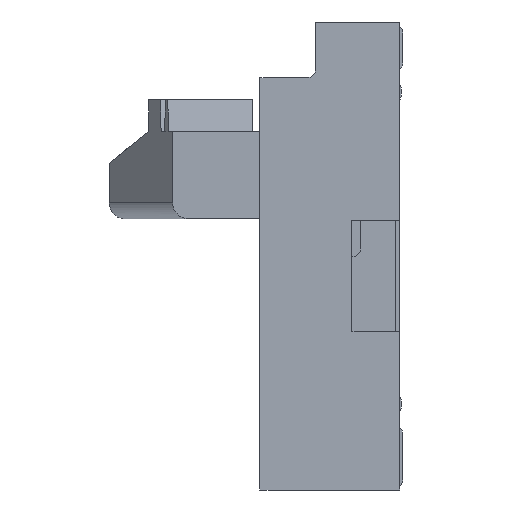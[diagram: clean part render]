
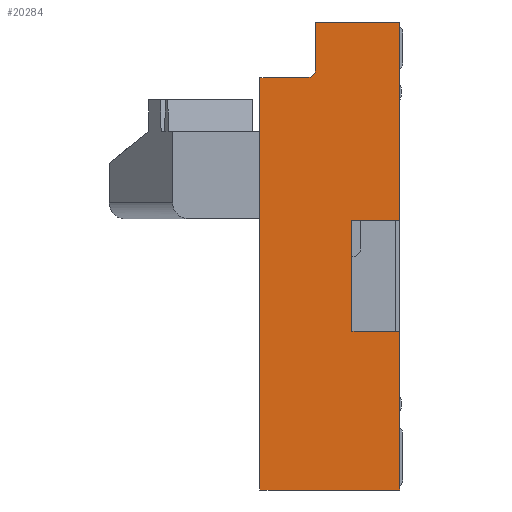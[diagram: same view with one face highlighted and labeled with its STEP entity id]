
A CAD part, left-side view. The second image highlights one B-rep face of the part: STEP entity #20284.
In plain terms, the highlighted planar face has unit normal (-1, 0, 0).
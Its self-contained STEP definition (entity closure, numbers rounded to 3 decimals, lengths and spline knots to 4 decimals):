
#4409 = AXIS2_PLACEMENT_3D ( 'NONE', #53363, #53366, #53368 ) ;
#20284 = ADVANCED_FACE ( 'NONE', ( #135703 ), #133390, .T. ) ;
#22918 = CARTESIAN_POINT ( 'NONE',  ( -8.4, 0.9, -0.35 ) ) ;
#22919 = DIRECTION ( 'NONE',  ( 0., 1., 0. ) ) ;
#22927 = CARTESIAN_POINT ( 'NONE',  ( -8.4, -0.5636, -2.95 ) ) ;
#22973 = DIRECTION ( 'NONE',  ( 0., 1., 0. ) ) ;
#22978 = CARTESIAN_POINT ( 'NONE',  ( -8.4, 0.02, -1.95 ) ) ;
#22979 = DIRECTION ( 'NONE',  ( 0., 1., 0. ) ) ;
#23030 = CARTESIAN_POINT ( 'NONE',  ( -8.4, 0.02, -1.25 ) ) ;
#23031 = DIRECTION ( 'NONE',  ( 0., -1., 0. ) ) ;
#23032 = CARTESIAN_POINT ( 'NONE',  ( -8.4, 0.02, -2.85 ) ) ;
#23033 = DIRECTION ( 'NONE',  ( 0., 0., -1. ) ) ;
#23034 = CARTESIAN_POINT ( 'NONE',  ( -8.4, 0.9, 0. ) ) ;
#23035 = DIRECTION ( 'NONE',  ( 0., -1., 0. ) ) ;
#23036 = CARTESIAN_POINT ( 'NONE',  ( -8.4, 0.9, 0. ) ) ;
#23037 = DIRECTION ( 'NONE',  ( 0., 0., 1. ) ) ;
#23038 = CARTESIAN_POINT ( 'NONE',  ( -8.4, 0.02, -2.85 ) ) ;
#23039 = DIRECTION ( 'NONE',  ( 0., 0., -1. ) ) ;
#23040 = CARTESIAN_POINT ( 'NONE',  ( -8.4, 0.32, -1.25 ) ) ;
#23041 = DIRECTION ( 'NONE',  ( 0., 0., 1. ) ) ;
#26681 = LINE ( 'NONE', #53252, #26720 ) ;
#26720 = VECTOR ( 'NONE', #53318, 1000. ) ;
#26735 = CIRCLE ( 'NONE', #4409, 0.05 ) ;
#27535 = LINE ( 'NONE', #22918, #27540 ) ;
#27540 = VECTOR ( 'NONE', #22919, 1000. ) ;
#27625 = LINE ( 'NONE', #22927, #27642 ) ;
#27642 = VECTOR ( 'NONE', #22973, 1000. ) ;
#27647 = LINE ( 'NONE', #22978, #27653 ) ;
#27653 = VECTOR ( 'NONE', #22979, 1000. ) ;
#27725 = LINE ( 'NONE', #23030, #27729 ) ;
#27728 = LINE ( 'NONE', #23032, #27731 ) ;
#27729 = VECTOR ( 'NONE', #23031, 1000. ) ;
#27730 = LINE ( 'NONE', #23034, #27734 ) ;
#27731 = VECTOR ( 'NONE', #23033, 1000. ) ;
#27732 = LINE ( 'NONE', #23036, #27737 ) ;
#27734 = VECTOR ( 'NONE', #23035, 1000. ) ;
#27736 = LINE ( 'NONE', #23038, #27739 ) ;
#27737 = VECTOR ( 'NONE', #23037, 1000. ) ;
#27738 = LINE ( 'NONE', #23040, #27741 ) ;
#27739 = VECTOR ( 'NONE', #23039, 1000. ) ;
#27741 = VECTOR ( 'NONE', #23041, 1000. ) ;
#28777 = AXIS2_PLACEMENT_3D ( 'NONE', #133382, #133392, #133393 ) ;
#33219 = ORIENTED_EDGE ( 'NONE', *, *, #143258, .T. ) ;
#33220 = ORIENTED_EDGE ( 'NONE', *, *, #143259, .F. ) ;
#33221 = ORIENTED_EDGE ( 'NONE', *, *, #143260, .F. ) ;
#33222 = ORIENTED_EDGE ( 'NONE', *, *, #142966, .T. ) ;
#33223 = ORIENTED_EDGE ( 'NONE', *, *, #142972, .F. ) ;
#33224 = ORIENTED_EDGE ( 'NONE', *, *, #143200, .T. ) ;
#33225 = ORIENTED_EDGE ( 'NONE', *, *, #143261, .F. ) ;
#33226 = ORIENTED_EDGE ( 'NONE', *, *, #143227, .F. ) ;
#33227 = ORIENTED_EDGE ( 'NONE', *, *, #143262, .F. ) ;
#33228 = ORIENTED_EDGE ( 'NONE', *, *, #143230, .T. ) ;
#33229 = ORIENTED_EDGE ( 'NONE', *, *, #143263, .T. ) ;
#53252 = CARTESIAN_POINT ( 'NONE',  ( -8.4, 0.55, 0. ) ) ;
#53318 = DIRECTION ( 'NONE',  ( 0., 0., -1. ) ) ;
#53363 = CARTESIAN_POINT ( 'NONE',  ( -8.4, 0.6, -0.3 ) ) ;
#53366 = DIRECTION ( 'NONE',  ( -1., 0., 0. ) ) ;
#53368 = DIRECTION ( 'NONE',  ( 0., 0., -1. ) ) ;
#119761 = EDGE_LOOP ( 'NONE', ( #33219, #33220, #33221, #33222, #33223, #33224, #33225, #33226, #33227, #33228, #33229 ) ) ;
#133382 = CARTESIAN_POINT ( 'NONE',  ( -8.4, 0., 0. ) ) ;
#133390 = PLANE ( 'NONE',  #28777 ) ;
#133392 = DIRECTION ( 'NONE',  ( -1., 0., 0. ) ) ;
#133393 = DIRECTION ( 'NONE',  ( 0., 0., -1. ) ) ;
#135703 = FACE_OUTER_BOUND ( 'NONE', #119761, .T. ) ;
#142966 = EDGE_CURVE ( 'NONE', #156673, #156671, #26681, .T. ) ;
#142972 = EDGE_CURVE ( 'NONE', #156678, #156671, #26735, .T. ) ;
#143200 = EDGE_CURVE ( 'NONE', #156678, #156984, #27535, .T. ) ;
#143227 = EDGE_CURVE ( 'NONE', #157007, #157009, #27625, .T. ) ;
#143230 = EDGE_CURVE ( 'NONE', #157001, #156979, #27647, .T. ) ;
#143258 = EDGE_CURVE ( 'NONE', #157029, #157032, #27725, .T. ) ;
#143259 = EDGE_CURVE ( 'NONE', #157037, #157032, #27728, .T. ) ;
#143260 = EDGE_CURVE ( 'NONE', #156673, #157037, #27730, .T. ) ;
#143261 = EDGE_CURVE ( 'NONE', #157009, #156984, #27732, .T. ) ;
#143262 = EDGE_CURVE ( 'NONE', #157001, #157007, #27736, .T. ) ;
#143263 = EDGE_CURVE ( 'NONE', #156979, #157029, #27738, .T. ) ;
#150562 = CARTESIAN_POINT ( 'NONE',  ( -8.4, 0.55, -0.3 ) ) ;
#150564 = CARTESIAN_POINT ( 'NONE',  ( -8.4, 0.55, 0. ) ) ;
#150569 = CARTESIAN_POINT ( 'NONE',  ( -8.4, 0.6, -0.35 ) ) ;
#150787 = CARTESIAN_POINT ( 'NONE',  ( -8.4, 0.9, -0.35 ) ) ;
#150788 = CARTESIAN_POINT ( 'NONE',  ( -8.4, 0.32, -1.95 ) ) ;
#150798 = CARTESIAN_POINT ( 'NONE',  ( -8.4, 0.02, -1.95 ) ) ;
#150803 = CARTESIAN_POINT ( 'NONE',  ( -8.4, 0.9, -2.95 ) ) ;
#150806 = CARTESIAN_POINT ( 'NONE',  ( -8.4, 0.02, -2.95 ) ) ;
#150816 = CARTESIAN_POINT ( 'NONE',  ( -8.4, 0.32, -1.25 ) ) ;
#150821 = CARTESIAN_POINT ( 'NONE',  ( -8.4, 0.02, 0. ) ) ;
#150822 = CARTESIAN_POINT ( 'NONE',  ( -8.4, 0.02, -1.25 ) ) ;
#156671 = VERTEX_POINT ( 'NONE', #150562 ) ;
#156673 = VERTEX_POINT ( 'NONE', #150564 ) ;
#156678 = VERTEX_POINT ( 'NONE', #150569 ) ;
#156979 = VERTEX_POINT ( 'NONE', #150788 ) ;
#156984 = VERTEX_POINT ( 'NONE', #150787 ) ;
#157001 = VERTEX_POINT ( 'NONE', #150798 ) ;
#157007 = VERTEX_POINT ( 'NONE', #150806 ) ;
#157009 = VERTEX_POINT ( 'NONE', #150803 ) ;
#157029 = VERTEX_POINT ( 'NONE', #150816 ) ;
#157032 = VERTEX_POINT ( 'NONE', #150822 ) ;
#157037 = VERTEX_POINT ( 'NONE', #150821 ) ;
